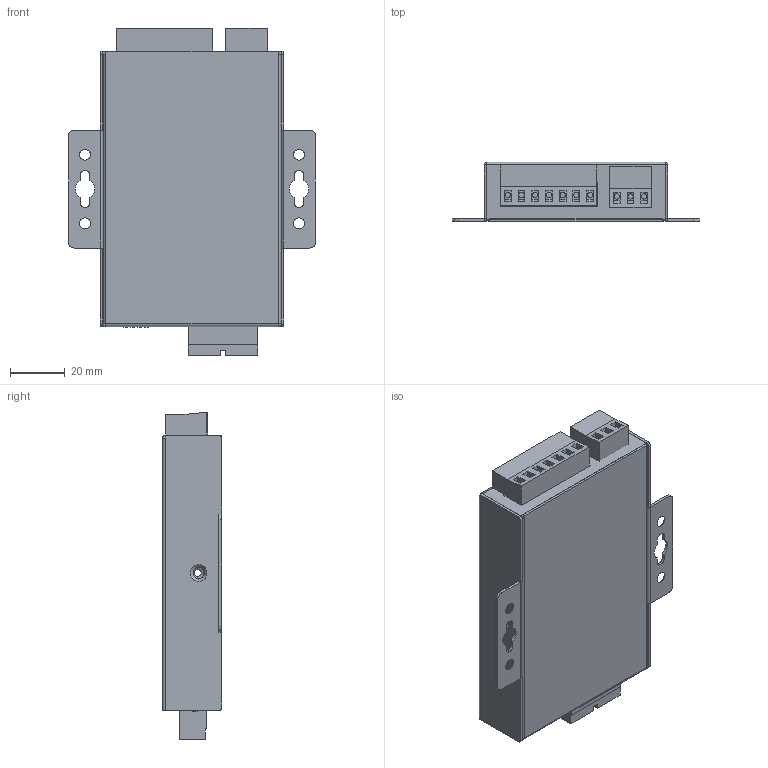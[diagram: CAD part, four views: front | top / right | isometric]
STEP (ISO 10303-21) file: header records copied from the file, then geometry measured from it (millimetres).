
FILE_DESCRIPTION((''),'2;1');
FILE_NAME('TCF_142_ASM','2017-03-22T',('Vincent_Huang'),('PTC'),'PRO/ENGINEER BY PARAMETRIC TECHNOLOGY CORPORATION, 2013230','PRO/ENGINEER BY PARAMETRIC TECHNOLOGY CORPORATION, 2013230','');
FILE_SCHEMA(('AUTOMOTIVE_DESIGN { 1 0 10303 214 1 1 1 1 }'));
Length unit declared in the file: millimetre
Products named in the file (13): BOT_TCF_142; TOP_TCF_142; MPCM_TCF_142; 1109000020400_SW_4SW_DIP90D; 1160058031400_FIBER_SC3015_; 1111000002200_TERBLOCK-M-3P; 1111000003200_TERMINAL_M_7P; 1111000002500_TERMINAL_FM_3P; 1111000003300_TERMINAL_FM_7P; 1106999993300_LED_GREEN3MM_H10; PCB_TCF_142_ASM; IMS_M3X4MM; TCF_142_ASM
Assembly tree (15 placements, depth 3):
  TCF_142_ASM
    BOT_TCF_142
    TOP_TCF_142
    PCB_TCF_142_ASM
      MPCM_TCF_142
      1109000020400_SW_4SW_DIP90D
      1160058031400_FIBER_SC3015_
      1111000002200_TERBLOCK-M-3P
      1111000003200_TERMINAL_M_7P
      1111000002500_TERMINAL_FM_3P
      1111000003300_TERMINAL_FM_7P
      1106999993300_LED_GREEN3MM_H10  x3
    IMS_M3X4MM  x2
Bounding box: 90 x 21.6 x 119.35 mm (x, y, z)
Volume: 51280 mm3; surface area: 74540.3 mm2
Topology: 18 solids, 18 shells, 917 faces, 2249 edges, 1444 vertices
Faces by surface type: plane 590, cylinder 275, torus 24, cone 12, bspline 10, sphere 6
Entity records: 29099 total; most frequent: CARTESIAN_POINT 5669, DIRECTION 4205, ORIENTED_EDGE 4022, EDGE_CURVE 2011, VECTOR 1435, LINE 1435, AXIS2_PLACEMENT_3D 1385, VERTEX_POINT 1297
